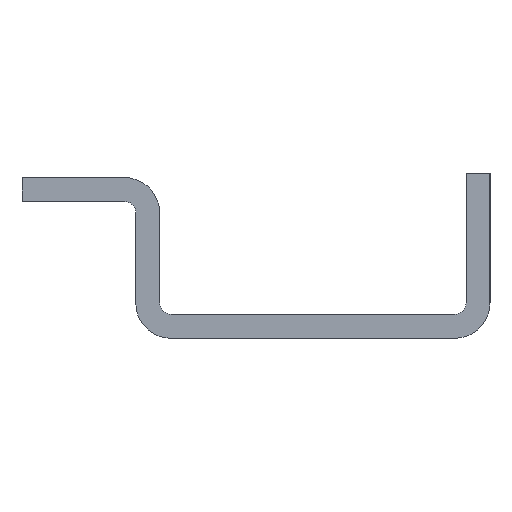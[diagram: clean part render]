
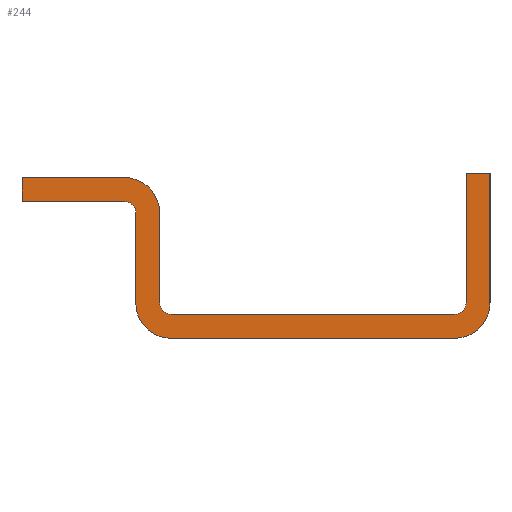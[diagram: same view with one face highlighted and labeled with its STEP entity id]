
A CAD part, left-side view. The second image highlights one B-rep face of the part: STEP entity #244.
In plain terms, the highlighted planar face has unit normal (-1, 0, 0).
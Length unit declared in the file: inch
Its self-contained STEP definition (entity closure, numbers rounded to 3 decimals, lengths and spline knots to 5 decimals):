
#244 = ADVANCED_FACE( '', ( #623 ), #624, .F. );
#623 = FACE_OUTER_BOUND( '', #1208, .T. );
#624 = PLANE( '', #1209 );
#1208 = EDGE_LOOP( '', ( #1982, #1983, #1984, #1985, #1986, #1987, #1988, #1989, #1990, #1991, #1992, #1993, #1994, #1995, #1996, #1997 ) );
#1209 = AXIS2_PLACEMENT_3D( '', #1998, #1999, #2000 );
#1982 = ORIENTED_EDGE( '', *, *, #2605, .T. );
#1983 = ORIENTED_EDGE( '', *, *, #2713, .T. );
#1984 = ORIENTED_EDGE( '', *, *, #2725, .F. );
#1985 = ORIENTED_EDGE( '', *, *, #2726, .T. );
#1986 = ORIENTED_EDGE( '', *, *, #2727, .T. );
#1987 = ORIENTED_EDGE( '', *, *, #2664, .F. );
#1988 = ORIENTED_EDGE( '', *, *, #2728, .F. );
#1989 = ORIENTED_EDGE( '', *, *, #2729, .T. );
#1990 = ORIENTED_EDGE( '', *, *, #2656, .T. );
#1991 = ORIENTED_EDGE( '', *, *, #2715, .T. );
#1992 = ORIENTED_EDGE( '', *, *, #2599, .F. );
#1993 = ORIENTED_EDGE( '', *, *, #2533, .T. );
#1994 = ORIENTED_EDGE( '', *, *, #2730, .T. );
#1995 = ORIENTED_EDGE( '', *, *, #2612, .F. );
#1996 = ORIENTED_EDGE( '', *, *, #2630, .F. );
#1997 = ORIENTED_EDGE( '', *, *, #2731, .F. );
#1998 = CARTESIAN_POINT( '', ( -11.375, 0.9265, 0.125 ) );
#1999 = DIRECTION( '', ( 1., 0., 0. ) );
#2000 = DIRECTION( '', ( 0., 0., -1. ) );
#2533 = EDGE_CURVE( '', #2925, #2923, #2926, .T. );
#2599 = EDGE_CURVE( '', #2925, #3047, #3048, .T. );
#2605 = EDGE_CURVE( '', #3058, #3056, #3059, .T. );
#2612 = EDGE_CURVE( '', #3068, #3070, #3071, .T. );
#2630 = EDGE_CURVE( '', #3099, #3068, #3102, .T. );
#2656 = EDGE_CURVE( '', #3142, #3143, #3144, .T. );
#2664 = EDGE_CURVE( '', #3155, #3157, #3158, .T. );
#2713 = EDGE_CURVE( '', #3056, #3231, #3233, .T. );
#2715 = EDGE_CURVE( '', #3143, #3047, #3235, .T. );
#2725 = EDGE_CURVE( '', #3246, #3231, #3247, .T. );
#2726 = EDGE_CURVE( '', #3246, #3248, #3249, .T. );
#2727 = EDGE_CURVE( '', #3248, #3157, #3250, .T. );
#2728 = EDGE_CURVE( '', #3251, #3155, #3252, .T. );
#2729 = EDGE_CURVE( '', #3251, #3142, #3253, .T. );
#2730 = EDGE_CURVE( '', #2923, #3070, #3254, .T. );
#2731 = EDGE_CURVE( '', #3058, #3099, #3255, .F. );
#2923 = VERTEX_POINT( '', #3507 );
#2925 = VERTEX_POINT( '', #3510 );
#2926 = LINE( '', #3511, #3512 );
#3047 = VERTEX_POINT( '', #3645 );
#3048 = LINE( '', #3646, #3647 );
#3056 = VERTEX_POINT( '', #3658 );
#3058 = VERTEX_POINT( '', #3661 );
#3059 = LINE( '', #3662, #3663 );
#3068 = VERTEX_POINT( '', #3673 );
#3070 = VERTEX_POINT( '', #3676 );
#3071 = CIRCLE( '', #3677, 0.06 );
#3099 = VERTEX_POINT( '', #3712 );
#3102 = LINE( '', #3716, #3717 );
#3142 = VERTEX_POINT( '', #3766 );
#3143 = VERTEX_POINT( '', #3767 );
#3144 = LINE( '', #3768, #3769 );
#3155 = VERTEX_POINT( '', #3783 );
#3157 = VERTEX_POINT( '', #3786 );
#3158 = CIRCLE( '', #3787, 0.06 );
#3231 = VERTEX_POINT( '', #3866 );
#3233 = CIRCLE( '', #3869, 0.185 );
#3235 = CIRCLE( '', #3871, 0.185 );
#3246 = VERTEX_POINT( '', #3886 );
#3247 = LINE( '', #3887, #3888 );
#3248 = VERTEX_POINT( '', #3889 );
#3249 = LINE( '', #3890, #3891 );
#3250 = LINE( '', #3892, #3893 );
#3251 = VERTEX_POINT( '', #3894 );
#3252 = LINE( '', #3895, #3896 );
#3253 = CIRCLE( '', #3897, 0.185 );
#3254 = LINE( '', #3898, #3899 );
#3255 = CIRCLE( '', #3900, 0.06 );
#3507 = CARTESIAN_POINT( '', ( -11.375, -0.8015, 0.861 ) );
#3510 = CARTESIAN_POINT( '', ( -11.375, -0.9265, 0.861 ) );
#3511 = CARTESIAN_POINT( '', ( -11.375, -0.9265, 0.861 ) );
#3512 = VECTOR( '', #4171, 39.37008 );
#3645 = CARTESIAN_POINT( '', ( -11.375, -0.9265, 0.185 ) );
#3646 = CARTESIAN_POINT( '', ( -11.375, -0.9265, 0.11049 ) );
#3647 = VECTOR( '', #4316, 39.37008 );
#3658 = CARTESIAN_POINT( '', ( -11.375, 0.8015, 0.656 ) );
#3661 = CARTESIAN_POINT( '', ( -11.375, 0.8015, 0.185 ) );
#3662 = CARTESIAN_POINT( '', ( -11.375, 0.8015, 0.11049 ) );
#3663 = VECTOR( '', #4321, 39.37008 );
#3673 = CARTESIAN_POINT( '', ( -11.375, -0.7415, 0.125 ) );
#3676 = CARTESIAN_POINT( '', ( -11.375, -0.8015, 0.185 ) );
#3677 = AXIS2_PLACEMENT_3D( '', #4330, #4331, #4332 );
#3712 = CARTESIAN_POINT( '', ( -11.375, 0.7415, 0.125 ) );
#3716 = CARTESIAN_POINT( '', ( -11.375, 0.9265, 0.125 ) );
#3717 = VECTOR( '', #4365, 39.37008 );
#3766 = CARTESIAN_POINT( '', ( -11.375, 0.7415, 0. ) );
#3767 = CARTESIAN_POINT( '', ( -11.375, -0.7415, 0. ) );
#3768 = CARTESIAN_POINT( '', ( -11.375, 0.9265, 0. ) );
#3769 = VECTOR( '', #4408, 39.37008 );
#3783 = CARTESIAN_POINT( '', ( -11.375, 0.9265, 0.656 ) );
#3786 = CARTESIAN_POINT( '', ( -11.375, 0.9865, 0.716 ) );
#3787 = AXIS2_PLACEMENT_3D( '', #4416, #4417, #4418 );
#3866 = CARTESIAN_POINT( '', ( -11.375, 0.9865, 0.841 ) );
#3869 = AXIS2_PLACEMENT_3D( '', #4501, #4502, #4503 );
#3871 = AXIS2_PLACEMENT_3D( '', #4504, #4505, #4506 );
#3886 = CARTESIAN_POINT( '', ( -11.375, 1.5215, 0.841 ) );
#3887 = CARTESIAN_POINT( '', ( -11.375, 0.91199, 0.841 ) );
#3888 = VECTOR( '', #4514, 39.37008 );
#3889 = CARTESIAN_POINT( '', ( -11.375, 1.5215, 0.716 ) );
#3890 = CARTESIAN_POINT( '', ( -11.375, 1.5215, 0.841 ) );
#3891 = VECTOR( '', #4515, 39.37008 );
#3892 = CARTESIAN_POINT( '', ( -11.375, 0.91199, 0.716 ) );
#3893 = VECTOR( '', #4516, 39.37008 );
#3894 = CARTESIAN_POINT( '', ( -11.375, 0.9265, 0.185 ) );
#3895 = CARTESIAN_POINT( '', ( -11.375, 0.9265, 0.11049 ) );
#3896 = VECTOR( '', #4517, 39.37008 );
#3897 = AXIS2_PLACEMENT_3D( '', #4518, #4519, #4520 );
#3898 = CARTESIAN_POINT( '', ( -11.375, -0.8015, 0.11049 ) );
#3899 = VECTOR( '', #4521, 39.37008 );
#3900 = AXIS2_PLACEMENT_3D( '', #4522, #4523, #4524 );
#4171 = DIRECTION( '', ( 0., 1., 0. ) );
#4316 = DIRECTION( '', ( 0., 0., -1. ) );
#4321 = DIRECTION( '', ( 0., 0., 1. ) );
#4330 = CARTESIAN_POINT( '', ( -11.375, -0.7415, 0.185 ) );
#4331 = DIRECTION( '', ( -1., 0., 0. ) );
#4332 = DIRECTION( '', ( 0., -1., 0. ) );
#4365 = DIRECTION( '', ( 0., -1., 0. ) );
#4408 = DIRECTION( '', ( 0., -1., 0. ) );
#4416 = CARTESIAN_POINT( '', ( -11.375, 0.9865, 0.656 ) );
#4417 = DIRECTION( '', ( -1., 0., 0. ) );
#4418 = DIRECTION( '', ( 0., 0., 1. ) );
#4501 = CARTESIAN_POINT( '', ( -11.375, 0.9865, 0.656 ) );
#4502 = DIRECTION( '', ( -1., 0., 0. ) );
#4503 = DIRECTION( '', ( 0., 1., 0. ) );
#4504 = CARTESIAN_POINT( '', ( -11.375, -0.7415, 0.185 ) );
#4505 = DIRECTION( '', ( -1., 0., 0. ) );
#4506 = DIRECTION( '', ( 0., 0., 1. ) );
#4514 = DIRECTION( '', ( 0., -1., 0. ) );
#4515 = DIRECTION( '', ( 0., 0., -1. ) );
#4516 = DIRECTION( '', ( 0., -1., 0. ) );
#4517 = DIRECTION( '', ( 0., 0., 1. ) );
#4518 = CARTESIAN_POINT( '', ( -11.375, 0.7415, 0.185 ) );
#4519 = DIRECTION( '', ( -1., 0., 0. ) );
#4520 = DIRECTION( '', ( 0., 0., 1. ) );
#4521 = DIRECTION( '', ( 0., 0., -1. ) );
#4522 = CARTESIAN_POINT( '', ( -11.375, 0.7415, 0.185 ) );
#4523 = DIRECTION( '', ( 1., 0., 0. ) );
#4524 = DIRECTION( '', ( 0., 1., 0. ) );
